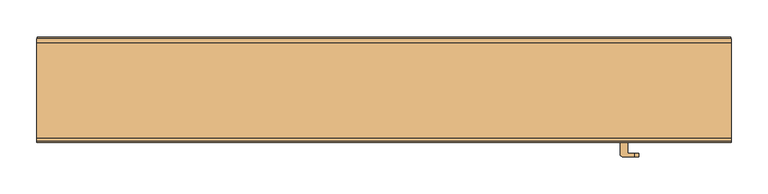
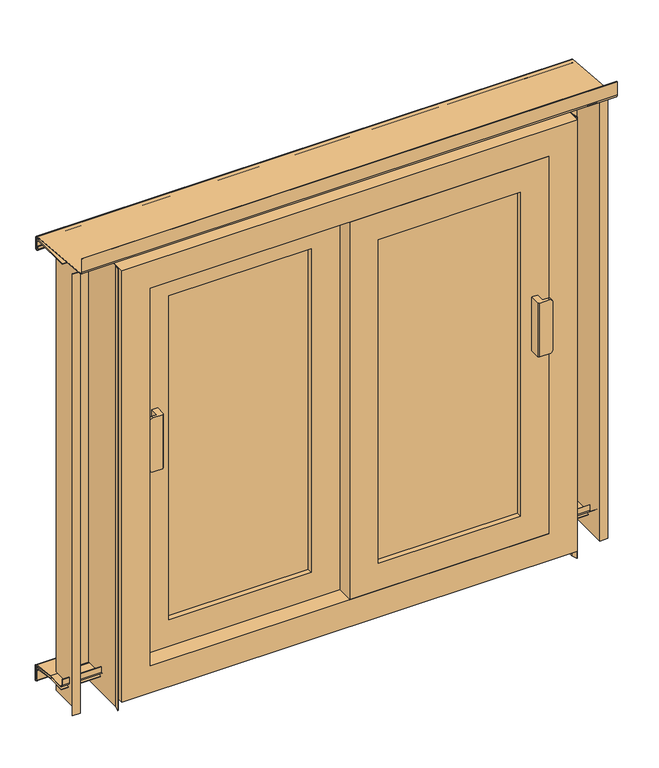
"""IFC4 building model written with IfcOpenShell, lengths in millimetres: door geometry, Fenetre pour Tenda Horizontal : Fenetre pour Tenda H."""

from ifc_helpers import new_model, si_unit, point, frame, frame_2d, origin, place, context, project, spatial, polyline, circle_curve, trimmed, segment, composite_curve, outline, extrude, faceted_brep, source, transform, mapped, element, save
from ifc_brep_helpers import plane_surface, cylinder_surface, advanced_brep


def door_ad10fda7(model_context):
    return source(origin(), model_context, "Body", "SolidModel", [
        advanced_brep(
        [(320.0, -60.7721751, 400.0), (320.0, -43.2408569, 400.0), (330.0, -43.2408569, 400.0), (330.0, -58.2408569, 400.0), (339.0477825, -58.2408569, 400.0), (339.0477825, -63.2408569, 400.0), (322.4686818, -63.2408569, 400.0), (320.0, -60.7721751, 500.0), (322.4686818, -63.2408569, 500.0), (339.0477825, -63.2408569, 500.0), (339.0477825, -58.2408569, 500.0), (330.0, -58.2408569, 500.0), (330.0, -43.2408569, 500.0), (320.0, -43.2408569, 500.0), (345.0, -58.2408569, 494.0477825), (345.0, -58.2408569, 405.9522175), (345.0, -63.2408569, 494.0477825), (345.0, -63.2408569, 405.9522175)],
        [
            (0, 1),
            (1, 2),
            (2, 3),
            (3, 4),
            (4, 5),
            (5, 6),
            (6, 0),
            (7, 8),
            (8, 9),
            (9, 10),
            (10, 11),
            (11, 12),
            (12, 13),
            (13, 7),
            (0, 7),
            (13, 1),
            (12, 2),
            (11, 3),
            (10, 14, circle_curve(frame((339.0477825, -58.2408569, 494.0477825), z_axis=(0.0, 1.0, 0.0), x_axis=(1.0, 0.0, 0.0)), 5.9522175)),
            (14, 15),
            (15, 4, circle_curve(frame((339.0477825, -58.2408569, 405.9522175), z_axis=(0.0, 1.0, 0.0), x_axis=(1.0, 0.0, 0.0)), 5.9522175)),
            (14, 16),
            (16, 17),
            (17, 15),
            (8, 6),
            (5, 17, circle_curve(frame((339.0477825, -63.2408569, 405.9522175), z_axis=(0.0, -1.0, 0.0), x_axis=(1.0, 0.0, 0.0)), 5.9522175)),
            (16, 9, circle_curve(frame((339.0477825, -63.2408569, 494.0477825), z_axis=(0.0, -1.0, 0.0), x_axis=(1.0, 0.0, 0.0)), 5.9522175)),
        ],
        [
            plane_surface(frame((320.0, -43.2408569, 400.0), z_axis=(0.0, 0.0, -1.0), x_axis=(0.0, 1.0, 0.0))),
            plane_surface(frame((320.0, -43.2408569, 500.0), z_axis=(0.0, 0.0, 1.0), x_axis=(0.0, -1.0, 0.0))),
            plane_surface(frame((320.0, -60.7721751, 400.0), z_axis=(-1.0, 0.0, 0.0), x_axis=(0.0, 0.0, 1.0))),
            plane_surface(frame((320.0, -43.2408569, 400.0), z_axis=(0.0, 1.0, 0.0), x_axis=(0.0, 0.0, 1.0))),
            plane_surface(frame((330.0, -43.2408569, 400.0), z_axis=(1.0, 0.0, 0.0), x_axis=(0.0, 0.0, 1.0))),
            plane_surface(frame((330.0, -58.2408569, 400.0), z_axis=(0.0, 1.0, 0.0), x_axis=(0.0, 0.0, 1.0))),
            plane_surface(frame((345.0, -58.2408569, 400.0), z_axis=(1.0, 0.0, 0.0), x_axis=(0.0, 0.0, 1.0))),
            plane_surface(frame((345.0, -63.2408569, 400.0), z_axis=(0.0, -1.0, 0.0), x_axis=(0.0, 0.0, 1.0))),
            plane_surface(frame((322.4686818, -63.2408569, 400.0), z_axis=(-0.7071067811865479, -0.7071067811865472, 0.0), x_axis=(0.0, 0.0, 1.0))),
            cylinder_surface(frame((339.0477825, -58.2408569, 494.0477825), z_axis=(0.0, 1.0, 0.0), x_axis=(1.0, 0.0, 0.0)), 5.9522175),
            cylinder_surface(frame((339.0477825, -58.2408569, 405.9522175), z_axis=(0.0, 1.0, 0.0), x_axis=(1.0, 0.0, 0.0)), 5.9522175),
        ],
        [
            (0, [[1, 2, 3, 4, 5, 6, 7]]),
            (1, [[8, 9, 10, 11, 12, 13, 14]]),
            (2, [[-1, 15, -14, 16]]),
            (3, [[-2, -16, -13, 17]]),
            (4, [[-3, -17, -12, 18]]),
            (5, [[-18, -11, 19, 20, 21, -4]]),
            (6, [[-20, 22, 23, 24]]),
            (7, [[25, -6, 26, -23, 27, -9]]),
            (8, [[-7, -25, -8, -15]]),
            (9, [[-10, -27, -22, -19]]),
            (10, [[-5, -21, -24, -26]]),
        ],
    ),
        advanced_brep(
        [(-320.0, -30.7721751, 400.0), (-322.4686818, -33.2408569, 400.0), (-339.0477825, -33.2408569, 400.0), (-339.0477825, -28.2408569, 400.0), (-330.0, -28.2408569, 400.0), (-330.0, -13.2408569, 400.0), (-320.0, -13.2408569, 400.0), (-320.0, -30.7721751, 500.0), (-320.0, -13.2408569, 500.0), (-330.0, -13.2408569, 500.0), (-330.0, -28.2408569, 500.0), (-339.0477825, -28.2408569, 500.0), (-339.0477825, -33.2408569, 500.0), (-322.4686818, -33.2408569, 500.0), (-345.0, -28.2408569, 405.9522175), (-345.0, -28.2408569, 494.0477825), (-345.0, -33.2408569, 405.9522175), (-345.0, -33.2408569, 494.0477825)],
        [
            (0, 1),
            (1, 2),
            (2, 3),
            (3, 4),
            (4, 5),
            (5, 6),
            (6, 0),
            (7, 8),
            (8, 9),
            (9, 10),
            (10, 11),
            (11, 12),
            (12, 13),
            (13, 7),
            (6, 8),
            (7, 0),
            (5, 9),
            (4, 10),
            (3, 14, circle_curve(frame((-339.0477825, -28.2408569, 405.9522175), z_axis=(0.0, 1.0, 0.0), x_axis=(-1.0, 0.0, 0.0)), 5.9522175)),
            (14, 15),
            (15, 11, circle_curve(frame((-339.0477825, -28.2408569, 494.0477825), z_axis=(0.0, 1.0, 0.0), x_axis=(-1.0, 0.0, 0.0)), 5.9522175)),
            (14, 16),
            (16, 17),
            (17, 15),
            (12, 17, circle_curve(frame((-339.0477825, -33.2408569, 494.0477825), z_axis=(0.0, -1.0, 0.0), x_axis=(-1.0, 0.0, 0.0)), 5.9522175)),
            (16, 2, circle_curve(frame((-339.0477825, -33.2408569, 405.9522175), z_axis=(0.0, -1.0, 0.0), x_axis=(-1.0, 0.0, 0.0)), 5.9522175)),
            (1, 13),
        ],
        [
            plane_surface(frame((-320.0, -13.2408569, 400.0), z_axis=(0.0, 0.0, -1.0), x_axis=(0.0, 1.0, 0.0))),
            plane_surface(frame((-320.0, -13.2408569, 500.0), z_axis=(0.0, 0.0, 1.0), x_axis=(0.0, -1.0, 0.0))),
            plane_surface(frame((-320.0, -30.7721751, 400.0), z_axis=(1.0, 0.0, 0.0), x_axis=(0.0, 0.0, 1.0))),
            plane_surface(frame((-320.0, -13.2408569, 400.0), z_axis=(0.0, 1.0, 0.0), x_axis=(0.0, 0.0, 1.0))),
            plane_surface(frame((-330.0, -13.2408569, 400.0), z_axis=(-1.0, 0.0, 0.0), x_axis=(0.0, 0.0, 1.0))),
            plane_surface(frame((-330.0, -28.2408569, 400.0), z_axis=(0.0, 1.0, 0.0), x_axis=(0.0, 0.0, 1.0))),
            plane_surface(frame((-345.0, -28.2408569, 400.0), z_axis=(-1.0, 0.0, 0.0), x_axis=(0.0, 0.0, 1.0))),
            plane_surface(frame((-345.0, -33.2408569, 400.0), z_axis=(0.0, -1.0, 0.0), x_axis=(0.0, 0.0, 1.0))),
            plane_surface(frame((-322.4686818, -33.2408569, 400.0), z_axis=(0.7071067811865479, -0.7071067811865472, 0.0), x_axis=(0.0, 0.0, 1.0))),
            cylinder_surface(frame((-339.0477825, -28.2408569, 494.0477825), z_axis=(0.0, 1.0, 0.0), x_axis=(-1.0, 0.0, 0.0)), 5.9522175),
            cylinder_surface(frame((-339.0477825, -28.2408569, 405.9522175), z_axis=(0.0, 1.0, 0.0), x_axis=(-1.0, 0.0, 0.0)), 5.9522175),
        ],
        [
            (0, [[1, 2, 3, 4, 5, 6, 7]]),
            (1, [[8, 9, 10, 11, 12, 13, 14]]),
            (2, [[15, -8, 16, -7]]),
            (3, [[17, -9, -15, -6]]),
            (4, [[18, -10, -17, -5]]),
            (5, [[-4, 19, 20, 21, -11, -18]]),
            (6, [[22, 23, 24, -20]]),
            (7, [[-13, 25, -23, 26, -2, 27]]),
            (8, [[-16, -14, -27, -1]]),
            (9, [[-21, -24, -25, -12]]),
            (10, [[-26, -22, -19, -3]]),
        ],
    ),
        faceted_brep([(-340.0, 16.7591431, 741.0), (-340.0, 26.7591431, 741.0), (340.0, 26.7591431, 741.0), (340.0, 16.7591431, 741.0), (-350.0, -43.2408569, 751.0), (-350.0, 16.7591431, 751.0), (350.0, 16.7591431, 751.0), (350.0, -43.2408569, 751.0), (-400.0, 26.7591431, 801.0), (-400.0, -43.2408569, 801.0), (400.0, -43.2408569, 801.0), (400.0, 26.7591431, 801.0), (340.0, 26.7591431, 60.0), (340.0, 16.7591431, 60.0), (350.0, 16.7591431, 50.0), (350.0, -43.2408569, 50.0), (400.0, -43.2408569, 0.0), (400.0, 26.7591431, 0.0), (-340.0, 26.7591431, 60.0), (-340.0, 16.7591431, 60.0), (-350.0, 16.7591431, 50.0), (-350.0, -43.2408569, 50.0), (-400.0, -43.2408569, 0.0), (-400.0, 26.7591431, 0.0)], [[[0, 1, 2, 3]], [[4, 5, 6, 7]], [[8, 9, 10, 11]], [[3, 2, 12, 13]], [[7, 6, 14, 15]], [[11, 10, 16, 17]], [[13, 12, 18, 19]], [[15, 14, 20, 21]], [[17, 16, 22, 23]], [[11, 17, 23, 8], [1, 18, 12, 2]], [[19, 18, 1, 0]], [[5, 20, 14, 6], [3, 13, 19, 0]], [[21, 20, 5, 4]], [[9, 22, 16, 10], [7, 15, 21, 4]], [[23, 22, 9, 8]]]),
        extrude(outline(polyline([(751.0, -350.0), (50.0, -350.0), (50.0, 0.0), (751.0, 0.0), (751.0, -350.0)]), holes=[polyline([(701.0, -50.0), (100.0, -50.0), (100.0, -300.0), (701.0, -300.0), (701.0, -50.0)])]), frame((0.0, -13.2408569, 0.0), z_axis=(0.0, 1.0, 0.0), x_axis=(0.0, 0.0, 1.0)), (0.0, 0.0, 1.0), 30.0),
        extrude(outline(polyline([(-300.0, 7.7591431), (-50.0, 7.7591431), (-50.0, -4.2408569), (-300.0, -4.2408569), (-300.0, 7.7591431)])), frame((0.0, 0.0, 100.0), z_axis=(0.0, 0.0, 1.0), x_axis=(1.0, 0.0, 0.0)), (0.0, 0.0, 1.0), 601.0),
        extrude(outline(polyline([(50.0, 350.0), (751.0, 350.0), (751.0, 0.0), (50.0, 0.0), (50.0, 350.0)]), holes=[polyline([(100.0, 50.0), (701.0, 50.0), (701.0, 300.0), (100.0, 300.0), (100.0, 50.0)])]), frame((0.0, -43.2408569, 0.0), z_axis=(0.0, 1.0, 0.0), x_axis=(0.0, 0.0, 1.0)), (0.0, 0.0, 1.0), 30.0),
        extrude(outline(polyline([(50.0, -22.2408569), (300.0, -22.2408569), (300.0, -34.2408569), (50.0, -34.2408569), (50.0, -22.2408569)])), frame((0.0, 0.0, 100.0), z_axis=(0.0, 0.0, 1.0), x_axis=(1.0, 0.0, 0.0)), (0.0, 0.0, 1.0), 601.0),
        extrude(outline(composite_curve([segment(trimmed(circle_curve(frame_2d((91.742772, 800.5442288)), 5.75), [point((92.2439175, 806.2723483))], [point((97.492772, 800.5442288))], False, "CARTESIAN"), True, "CONTINUOUS"), segment(polyline([(97.492772, 800.5442288), (97.492772, 783.0809)]), True, "CONTINUOUS"), segment(trimmed(circle_curve(frame_2d((94.492772, 783.0809)), 3.0), [point((97.492772, 783.0809))], [point((91.492772, 783.0809))], False, "CARTESIAN"), True, "CONTINUOUS"), segment(polyline([(91.492772, 783.0809), (91.492772, 788.0809), (92.492772, 788.0809), (92.492772, 783.0809)]), True, "CONTINUOUS"), segment(trimmed(circle_curve(frame_2d((94.492772, 783.0809)), 2.0), [point((92.492772, 783.0809))], [point((96.492772, 783.0809))], True, "CARTESIAN"), True, "CONTINUOUS"), segment(polyline([(96.492772, 783.0809), (96.492772, 800.315146)]), True, "CONTINUOUS"), segment(trimmed(circle_curve(frame_2d((91.492772, 800.315146)), 5.0), [point((96.492772, 800.315146))], [point((91.9285507, 805.2961195))], True, "CARTESIAN"), True, "CONTINUOUS"), segment(polyline([(91.9285507, 805.2961195), (-37.9920024, 816.6626951)]), True, "CONTINUOUS"), segment(trimmed(circle_curve(frame_2d((-37.4908569, 822.3908146)), 5.75), [point((-37.9920024, 816.6626951))], [point((-43.2408569, 822.3908146))], False, "CARTESIAN"), True, "CONTINUOUS"), segment(polyline([(-43.2408569, 822.3908146), (-43.2408569, 847.1633549), (-42.2408569, 847.1633549), (-42.2408569, 822.6198974)]), True, "CONTINUOUS"), segment(trimmed(circle_curve(frame_2d((-37.2408569, 822.6198974)), 5.0), [point((-42.2408569, 822.6198974))], [point((-37.6766356, 817.6389239))], True, "CARTESIAN"), True, "CONTINUOUS"), segment(polyline([(-37.6766356, 817.6389239), (92.2439175, 806.2723483)]), True, "CONTINUOUS")], self_intersect=False)), frame((-470.0, 0.0, 0.0), z_axis=(1.0, 0.0, 0.0), x_axis=(0.0, 1.0, 0.0)), (0.0, 0.0, 1.0), 940.0),
        extrude(outline(composite_curve([segment(trimmed(circle_curve(frame_2d((89.242772, 796.25)), 5.75), [point((89.242772, 802.0))], [point((94.992772, 796.25))], False, "CARTESIAN"), True, "CONTINUOUS"), segment(polyline([(94.992772, 796.25), (94.992772, 786.0), (93.992772, 786.0), (93.992772, 796.0)]), True, "CONTINUOUS"), segment(trimmed(circle_curve(frame_2d((88.992772, 796.0)), 5.0), [point((93.992772, 796.0))], [point((88.992772, 801.0))], True, "CARTESIAN"), True, "CONTINUOUS"), segment(polyline([(88.992772, 801.0), (16.7591431, 801.0), (16.7591431, 802.0), (89.242772, 802.0)]), True, "CONTINUOUS")], self_intersect=False)), frame((-470.0, 0.0, 0.0), z_axis=(1.0, 0.0, 0.0), x_axis=(0.0, 1.0, 0.0)), (0.0, 0.0, 1.0), 940.0),
        extrude(outline(composite_curve([segment(trimmed(circle_curve(frame_2d((22.5091431, 19.5993885)), 5.75), [point((22.5091431, 13.8493885))], [point((16.7591431, 19.5993885))], False, "CARTESIAN"), True, "CONTINUOUS"), segment(polyline([(16.7591431, 19.5993885), (16.7591431, 29.7657197), (17.7591431, 29.7657197), (17.7591431, 19.7657197)]), True, "CONTINUOUS"), segment(trimmed(circle_curve(frame_2d((22.7591431, 19.7657197)), 5.0), [point((17.7591431, 19.7657197))], [point((22.7591431, 14.7657197))], True, "CARTESIAN"), True, "CONTINUOUS"), segment(polyline([(22.7591431, 14.7657197), (53.6757766, 14.7657197), (94.8343667, 9.6057488)]), True, "CONTINUOUS"), segment(trimmed(circle_curve(frame_2d((94.1190997, 3.9004098)), 5.75), [point((94.8343667, 9.6057488))], [point((99.8690997, 3.9004098))], False, "CARTESIAN"), True, "CONTINUOUS"), segment(polyline([(99.8690997, 3.9004098), (99.8690997, -18.5280564)]), True, "CONTINUOUS"), segment(trimmed(circle_curve(frame_2d((97.3690997, -18.5254444)), 2.5000014), [point((99.8690997, -18.5280564))], [point((94.8690997, -18.5280564))], False, "CARTESIAN"), True, "CONTINUOUS"), segment(polyline([(94.8690997, -18.5280564), (94.8690997, -1.0254457), (95.8690997, -1.0254457), (95.8690997, -18.5280564)]), True, "CONTINUOUS"), segment(trimmed(circle_curve(frame_2d((97.3690997, -18.5571543)), 1.5002822), [point((95.8690997, -18.5280564))], [point((98.8690997, -18.5280564))], True, "CARTESIAN"), True, "CONTINUOUS"), segment(polyline([(98.8690997, -18.5280564), (98.8690997, 3.6459235)]), True, "CONTINUOUS"), segment(trimmed(circle_curve(frame_2d((93.8690997, 3.6459235)), 5.0), [point((98.8690997, 3.6459235))], [point((94.491071, 8.6070879))], True, "CARTESIAN"), True, "CONTINUOUS"), segment(polyline([(94.491071, 8.6070879), (52.6757766, 13.8493885), (22.5091431, 13.8493885)]), True, "CONTINUOUS")], self_intersect=False)), frame((-469.7838213, 0.0, 0.0), z_axis=(1.0, 0.0, 0.0), x_axis=(0.0, 1.0, 0.0)), (0.0, 0.0, 1.0), 939.5676427),
        extrude(outline(composite_curve([segment(trimmed(circle_curve(frame_2d((92.2656457, -0.5602154)), 5.75), [point((92.9885508, 5.1441609))], [point((98.0156457, -0.5602154))], False, "CARTESIAN"), True, "CONTINUOUS"), segment(polyline([(98.0156457, -0.5602154), (98.0156457, -18.7572246), (97.0156457, -18.7572246), (97.0156457, -0.8155942)]), True, "CONTINUOUS"), segment(trimmed(circle_curve(frame_2d((92.0156457, -0.8155942)), 5.0), [point((97.0156457, -0.8155942))], [point((92.6442588, 4.144733))], True, "CARTESIAN"), True, "CONTINUOUS"), segment(polyline([(92.6442588, 4.144733), (52.4234998, 9.2418357), (20.0166386, 9.2418357), (20.0166386, 10.1581669), (53.4234998, 10.1581669), (92.9885508, 5.1441609)]), True, "CONTINUOUS")], self_intersect=False)), frame((-469.7838213, 0.0, 0.0), z_axis=(1.0, 0.0, 0.0), x_axis=(0.0, 1.0, 0.0)), (0.0, 0.0, 1.0), 939.5676427),
        extrude(outline(polyline([(400.0, -26.7620699), (400.0, 56.7591431), (457.2054608, 56.7591431), (457.2054608, -13.2408569), (469.7838213, -13.2408569), (470.0, -14.2578975), (456.2054608, -14.2578975), (456.2054608, 55.7591431), (401.0, 55.7591431), (401.0, -26.6304174), (403.6043568, -36.3500091), (402.6384309, -36.6088282), (400.0, -26.7620699)])), frame((0.0, 0.0, -18.5280564), z_axis=(0.0, 0.0, 1.0), x_axis=(1.0, 0.0, 0.0)), (0.0, 0.0, 1.0), 819.5280564),
        extrude(outline(polyline([(-400.0, -26.7620699), (-402.6384309, -36.6088282), (-403.6043568, -36.3500091), (-401.0, -26.6304174), (-401.0, 55.7591431), (-456.2054608, 55.7591431), (-456.2054608, -14.2578975), (-470.0, -14.2578975), (-469.7838213, -13.2408569), (-457.2054608, -13.2408569), (-457.2054608, 56.7591431), (-400.0, 56.7591431), (-400.0, -26.7620699)])), frame((0.0, 0.0, -18.7572246), z_axis=(0.0, 0.0, 1.0), x_axis=(1.0, 0.0, 0.0)), (0.0, 0.0, 1.0), 819.7572246),
    ])


if __name__ == "__main__":
    model = new_model("IFC4")
    model_context = context("Model", 3, world=origin())
    ifc_project = project(units=[si_unit("LENGTHUNIT", "METRE", prefix="MILLI")], contexts=[model_context])
    site = spatial("IfcSite", under=ifc_project)
    building = spatial("IfcBuilding", under=site)
    placement = place(None, origin())
    door_shape = door_ad10fda7(model_context)
    element("IfcDoor", 1, ObjectType="Fenetre pour Tenda Horizontal : Fenetre pour Tenda H", at=placement, inside=building, context=model_context, shape_type="MappedRepresentation", body=[
        mapped(door_shape, transform((0.0, 0.0, 0.0), x_axis=(1.0, 0.0, 0.0), y_axis=(0.0, 1.0, 0.0), z_axis=(0.0, 0.0, 1.0))),
    ])
    save(model, "model.ifc")
